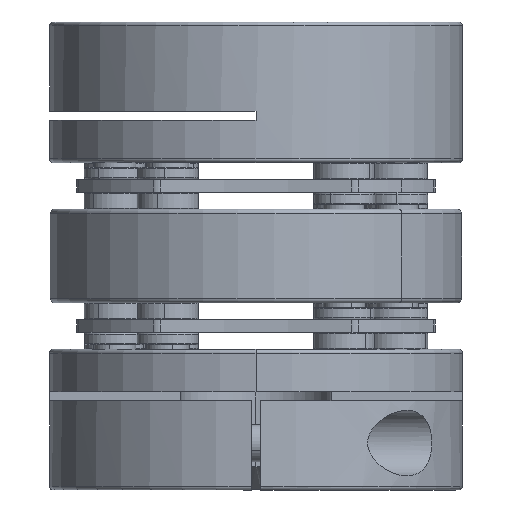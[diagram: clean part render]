
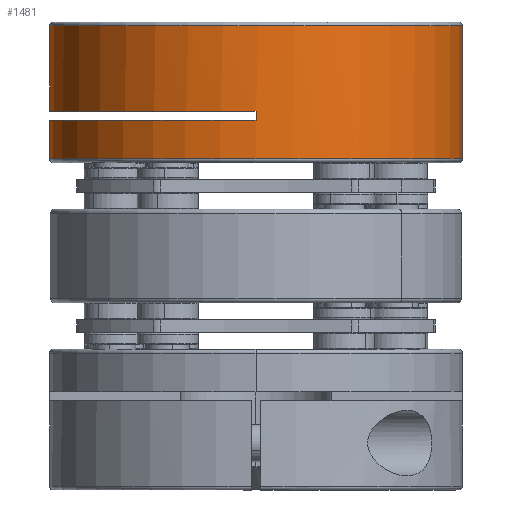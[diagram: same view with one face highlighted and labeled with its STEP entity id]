
A CAD part, front view. The second image highlights one B-rep face of the part: STEP entity #1481.
In plain terms, the highlighted cylindrical face has radius 44 mm (diameter 88 mm), a partial arc.
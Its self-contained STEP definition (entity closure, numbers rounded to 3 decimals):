
#38 = CARTESIAN_POINT ( 'NONE',  ( 44., 0., 29.2 ) ) ;
#88 = CARTESIAN_POINT ( 'NONE',  ( 44., 0., 0.8 ) ) ;
#198 = DIRECTION ( 'NONE',  ( 1., 0., 0. ) ) ;
#199 = DIRECTION ( 'NONE',  ( 0., 0., -1. ) ) ;
#200 = AXIS2_PLACEMENT_3D ( 'NONE', #206, #199, #198 ) ;
#201 = CIRCLE ( 'NONE', #200, 44. ) ;
#206 = CARTESIAN_POINT ( 'NONE',  ( 0., 0., 29.2 ) ) ;
#218 = CARTESIAN_POINT ( 'NONE',  ( -43.989, -1., 29.2 ) ) ;
#1092 = CARTESIAN_POINT ( 'NONE',  ( -44., 0., 0.8 ) ) ;
#1203 = VERTEX_POINT ( 'NONE', #3089 ) ;
#1242 = EDGE_CURVE ( 'NONE', #7993, #8001, #3092, .T. ) ;
#1341 = EDGE_CURVE ( 'NONE', #1342, #7912, #3279, .T. ) ;
#1342 = VERTEX_POINT ( 'NONE', #3275 ) ;
#1381 = EDGE_CURVE ( 'NONE', #1342, #1203, #3260, .T. ) ;
#1433 = ORIENTED_EDGE ( 'NONE', *, *, #1242, .F. ) ;
#1434 = ORIENTED_EDGE ( 'NONE', *, *, #8033, .T. ) ;
#1481 = ADVANCED_FACE ( 'NONE', ( #3572 ), #3571, .T. ) ;
#1553 = EDGE_CURVE ( 'NONE', #1554, #1686, #3597, .T. ) ;
#1554 = VERTEX_POINT ( 'NONE', #3758 ) ;
#1555 = ORIENTED_EDGE ( 'NONE', *, *, #1556, .T. ) ;
#1556 = EDGE_CURVE ( 'NONE', #1554, #1203, #3740, .T. ) ;
#1612 = ORIENTED_EDGE ( 'NONE', *, *, #1381, .F. ) ;
#1613 = ORIENTED_EDGE ( 'NONE', *, *, #1341, .T. ) ;
#1614 = ORIENTED_EDGE ( 'NONE', *, *, #1615, .T. ) ;
#1615 = EDGE_CURVE ( 'NONE', #7912, #8001, #3595, .T. ) ;
#1648 = EDGE_LOOP ( 'NONE', ( #1433, #1434, #1684, #1687, #1555, #1612, #1613, #1614 ) ) ;
#1684 = ORIENTED_EDGE ( 'NONE', *, *, #1685, .F. ) ;
#1685 = EDGE_CURVE ( 'NONE', #1686, #7994, #3854, .T. ) ;
#1686 = VERTEX_POINT ( 'NONE', #3881 ) ;
#1687 = ORIENTED_EDGE ( 'NONE', *, *, #1553, .F. ) ;
#3033 = DIRECTION ( 'NONE',  ( 0., 0., -1. ) ) ;
#3089 = CARTESIAN_POINT ( 'NONE',  ( 0., -44., 9. ) ) ;
#3090 = VECTOR ( 'NONE', #3033, 1000. ) ;
#3091 = CARTESIAN_POINT ( 'NONE',  ( 44., 0., 30. ) ) ;
#3092 = LINE ( 'NONE', #3091, #3090 ) ;
#3196 = CARTESIAN_POINT ( 'NONE',  ( 0., 0., 9. ) ) ;
#3257 = DIRECTION ( 'NONE',  ( 1., 0., 0. ) ) ;
#3258 = DIRECTION ( 'NONE',  ( 0., 0., 1. ) ) ;
#3259 = AXIS2_PLACEMENT_3D ( 'NONE', #3196, #3258, #3257 ) ;
#3260 = CIRCLE ( 'NONE', #3259, 44. ) ;
#3275 = CARTESIAN_POINT ( 'NONE',  ( -44., 0., 9. ) ) ;
#3276 = DIRECTION ( 'NONE',  ( 0., 0., -1. ) ) ;
#3277 = VECTOR ( 'NONE', #3276, 1000. ) ;
#3278 = CARTESIAN_POINT ( 'NONE',  ( -44., 0., 30. ) ) ;
#3279 = LINE ( 'NONE', #3278, #3277 ) ;
#3566 = DIRECTION ( 'NONE',  ( -1., 0., 0. ) ) ;
#3567 = DIRECTION ( 'NONE',  ( 0., 0., -1. ) ) ;
#3568 = CARTESIAN_POINT ( 'NONE',  ( 0., 0., 30. ) ) ;
#3569 = AXIS2_PLACEMENT_3D ( 'NONE', #3568, #3567, #3566 ) ;
#3571 = CYLINDRICAL_SURFACE ( 'NONE', #3569, 44. ) ;
#3572 = FACE_OUTER_BOUND ( 'NONE', #1648, .T. ) ;
#3591 = DIRECTION ( 'NONE',  ( 1., 0., 0. ) ) ;
#3592 = DIRECTION ( 'NONE',  ( 0., 0., 1. ) ) ;
#3593 = CARTESIAN_POINT ( 'NONE',  ( 0., 0., 0.8 ) ) ;
#3594 = AXIS2_PLACEMENT_3D ( 'NONE', #3593, #3592, #3591 ) ;
#3595 = CIRCLE ( 'NONE', #3594, 44. ) ;
#3596 = AXIS2_PLACEMENT_3D ( 'NONE', #3757, #3756, #3601 ) ;
#3597 = CIRCLE ( 'NONE', #3596, 44. ) ;
#3601 = DIRECTION ( 'NONE',  ( -1., 0., 0. ) ) ;
#3660 = DIRECTION ( 'NONE',  ( 0., 0., -1. ) ) ;
#3661 = VECTOR ( 'NONE', #3660, 1000. ) ;
#3662 = CARTESIAN_POINT ( 'NONE',  ( 0., -44., 30. ) ) ;
#3740 = LINE ( 'NONE', #3662, #3661 ) ;
#3756 = DIRECTION ( 'NONE',  ( 0., 0., -1. ) ) ;
#3757 = CARTESIAN_POINT ( 'NONE',  ( 0., 0., 11. ) ) ;
#3758 = CARTESIAN_POINT ( 'NONE',  ( 0., -44., 11. ) ) ;
#3852 = VECTOR ( 'NONE', #3882, 1000. ) ;
#3853 = CARTESIAN_POINT ( 'NONE',  ( -43.989, -1., 30. ) ) ;
#3854 = LINE ( 'NONE', #3853, #3852 ) ;
#3881 = CARTESIAN_POINT ( 'NONE',  ( -43.989, -1., 11. ) ) ;
#3882 = DIRECTION ( 'NONE',  ( 0., 0., 1. ) ) ;
#7912 = VERTEX_POINT ( 'NONE', #1092 ) ;
#7993 = VERTEX_POINT ( 'NONE', #38 ) ;
#7994 = VERTEX_POINT ( 'NONE', #218 ) ;
#8001 = VERTEX_POINT ( 'NONE', #88 ) ;
#8033 = EDGE_CURVE ( 'NONE', #7993, #7994, #201, .T. ) ;
